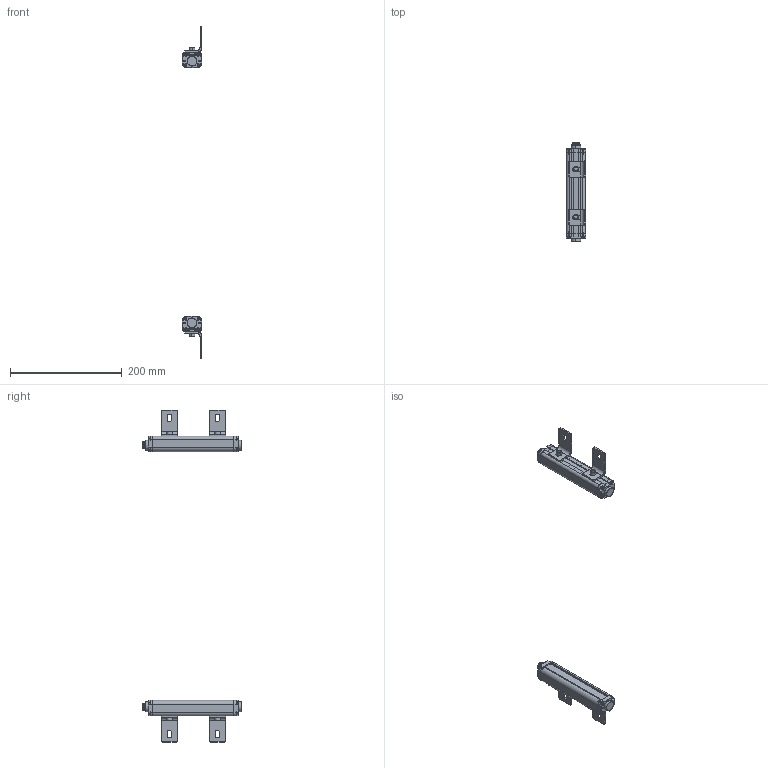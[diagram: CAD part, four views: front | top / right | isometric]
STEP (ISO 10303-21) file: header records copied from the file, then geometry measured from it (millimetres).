
FILE_DESCRIPTION (( 'STEP AP214' ), '1' );
FILE_NAME ('elg1210.STEP', '2018-03-08T10:30:27', ( '' ), ( '' ), 'SwSTEP 2.0', 'SolidWorks 2017', '' );
FILE_SCHEMA (( 'AUTOMOTIVE_DESIGN' ));
Length unit declared in the file: millimetre
Products named in the file (11): hkct1-1210; czzj-1210; bz1-1210; elgw-1210; lgp-1210; lx-1210; elgdg03-1210; elg1210; hk-1210; glgdg-1210; dlx-1210
Assembly tree (40 placements, depth 2):
  elg1210
    elgw-1210  x2
    bz1-1210  x2
    lgp-1210  x2
    glgdg-1210  x2
    elgdg03-1210  x2
    hkct1-1210  x2
    lx-1210  x16
    hk-1210  x4
    czzj-1210  x4
    dlx-1210  x4
Bounding box: 34.7 x 177.6 x 594 mm (x, y, z)
Volume: 155331.5 mm3; surface area: 150222.2 mm2
Topology: 40 solids, 40 shells, 2096 faces, 5496 edges, 3516 vertices
Faces by surface type: cylinder 1000, plane 688, bspline 408
Entity records: 142209 total; most frequent: CARTESIAN_POINT 127920, ORIENTED_EDGE 3028, DIRECTION 2666, EDGE_CURVE 1514, VERTEX_POINT 974, AXIS2_PLACEMENT_3D 957, VECTOR 752, LINE 752
